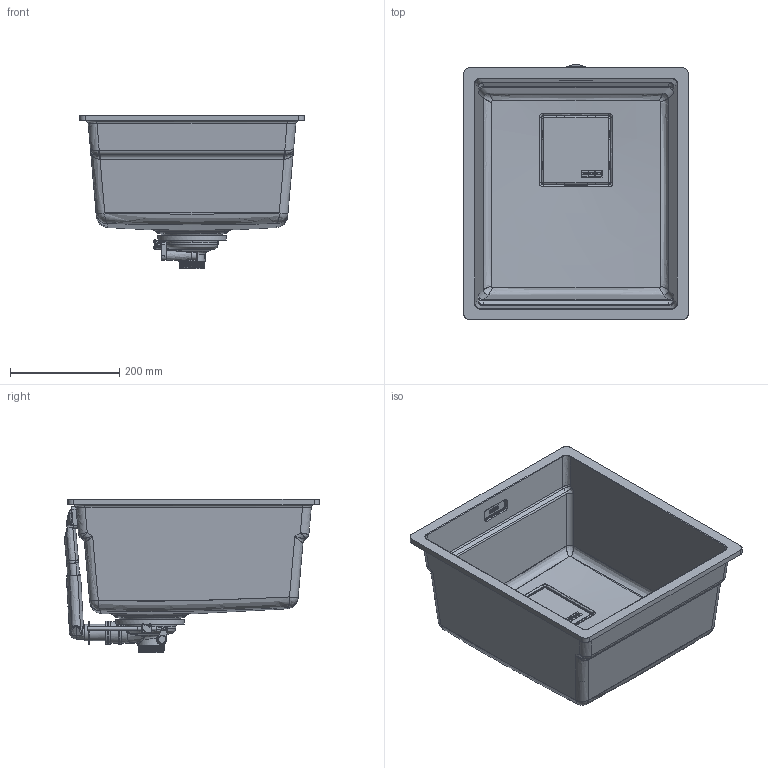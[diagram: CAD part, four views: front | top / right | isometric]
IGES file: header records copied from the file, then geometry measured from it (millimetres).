
Global section: file name: F:\_CONVERSIONE_CAD_2024_2025\_2024\03_3D kits new\Sinks\KUBUS-2\125.0706.703 3D001_Sinks_Kubus-2_KNG-110-37\3D001_Sinks_Kubus-2_KNG-110-37.igs; native system: Rhinoceros ( May 17 2024 ); preprocessor: Trout Lake IGES 012 May 17 2024; date: 240704.132107; units: millimetre
Bounding box: 410 x 466.37 x 280 mm (x, y, z)
Surface area: 1030992.9 mm2 (no closed solid volume)
Topology: 0 solids, 0 shells, 2606 faces, 16135 edges, 16081 vertices
Faces by surface type: bspline 2606
